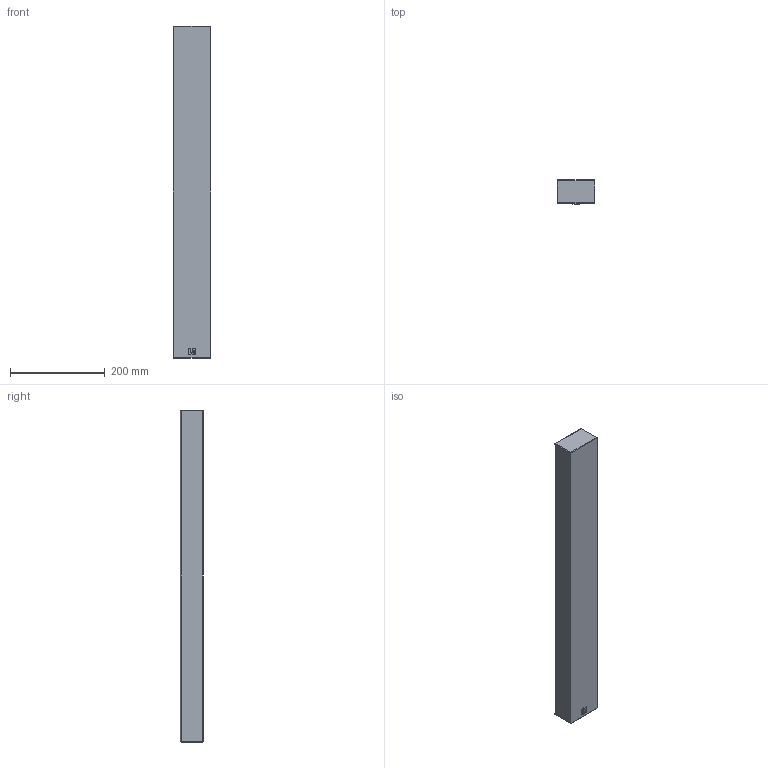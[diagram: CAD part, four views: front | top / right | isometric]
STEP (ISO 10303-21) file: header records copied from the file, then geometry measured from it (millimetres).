
FILE_DESCRIPTION(/* description */ (''),/* implementation_level */ '2;1');
FILE_NAME(/* name */ 'DL-A 2.0 - 2.2.stp',/* time_stamp */ '2024-07-25T10:34:58+02:00',/* author */ ('d.streicher'),/* organization */ (''),/* preprocessor_version */ 'ST-DEVELOPER v20',/* originating_system */ 'Autodesk Inventor 2025',/* authorisation */ '');
FILE_SCHEMA (('AUTOMOTIVE_DESIGN { 1 0 10303 214 3 1 1 }'));
Length unit declared in the file: millimetre
Products named in the file (1): DL-A 2.0 - 2.2
Bounding box: 80 x 49.5 x 700 mm (x, y, z)
Volume: 2531005 mm3; surface area: 192683.5 mm2
Topology: 1 solids, 1 shells, 54 faces, 118 edges, 72 vertices
Faces by surface type: plane 28, cylinder 18, bspline 4, sphere 4
Full cylindrical faces by diameter (mm): 6 x2
Entity records: 1618 total; most frequent: CARTESIAN_POINT 277, DIRECTION 260, ORIENTED_EDGE 236, EDGE_CURVE 118, AXIS2_PLACEMENT_3D 91, LINE 78, VECTOR 78, VERTEX_POINT 72
